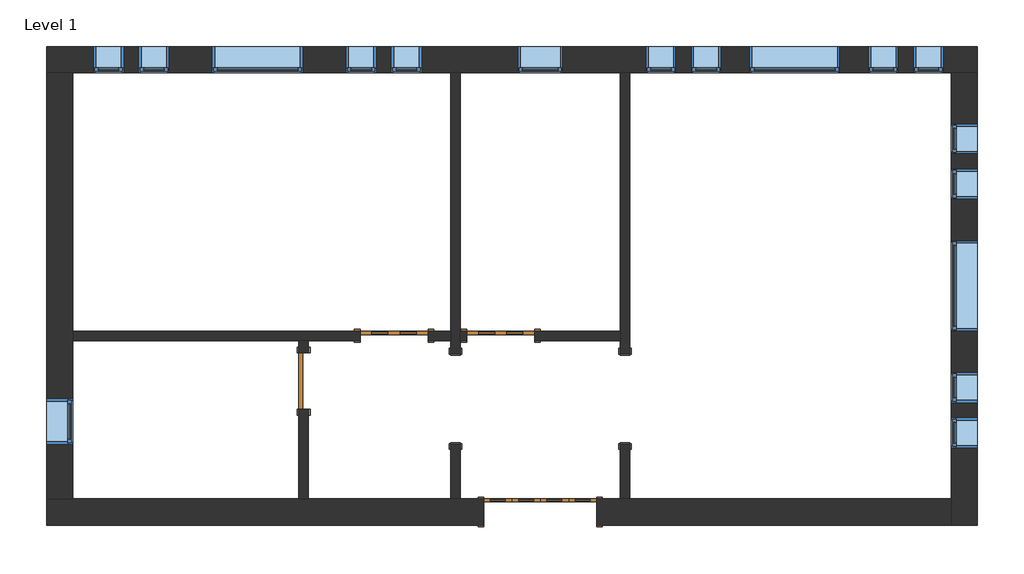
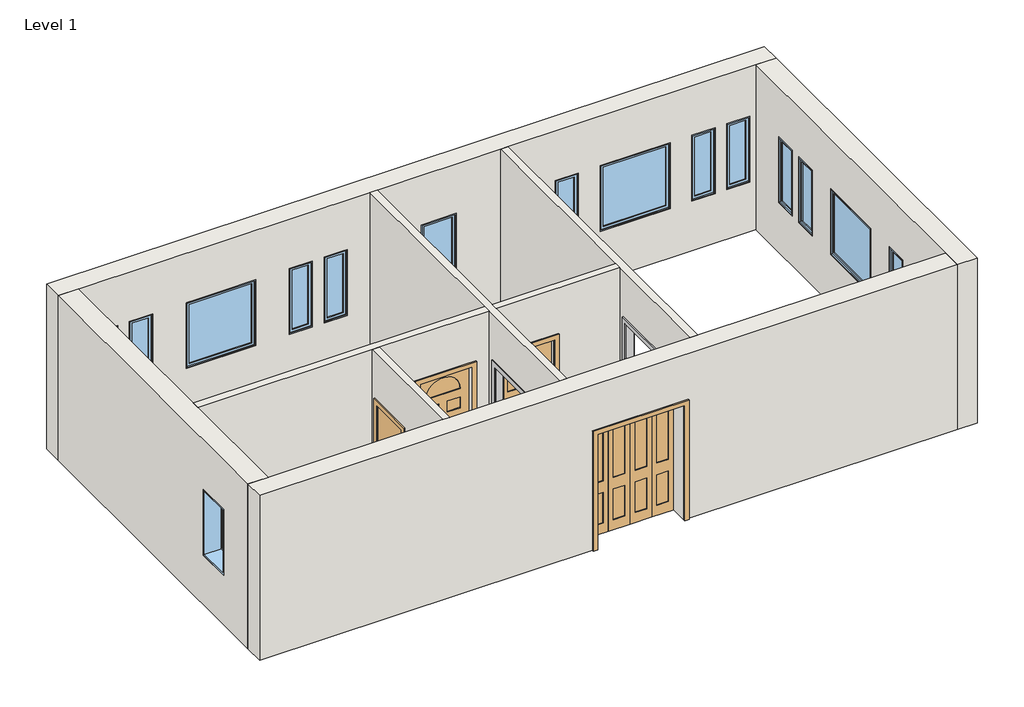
# One storey: 17 windows, 8 walls, 4 doors, 2 proxies.
"""IFC4 building model written with IfcOpenShell, lengths in millimetres."""

from ifc_helpers import new_model, si_unit, frame, origin, place, context, project, spatial, polyline, outline, extrude, faceted_brep, transform, mapped, element, save
from components import proxy_f44482cc, door_0d09f749, door_829da954, door_2e3b4da2, door_4d6c7550, window_da97879f, window_d61ef850, window_60baf983, window_6eb97611

model = new_model("IFC4")

# Units and contexts
model_context = context("Model", 3, world=origin())
ifc_project = project(units=[si_unit("LENGTHUNIT", "METRE", prefix="MILLI")], contexts=[model_context])

# Site, building, storey
site = spatial("IfcSite", under=ifc_project)
building = spatial("IfcBuilding", under=site)
storey = spatial("IfcBuildingStorey", under=building, Name="Level 1", Elevation=0.0)

# Proxies
placement = place(None, origin())
proxy_shape = proxy_f44482cc(model_context)
element("IfcBuildingElementProxy", 1, Name="Passage Opening-Cased : 48\" x 84\"", ObjectType="Passage Opening-Cased : 48\" x 84\"", at=placement, inside=storey, context=model_context, shape_type="MappedRepresentation", body=[
    mapped(proxy_shape, transform((3208.4428612, 1537.2944757, 0.0), x_axis=(0.0, 1.0, 0.0), y_axis=(-1.0, 0.0, 0.0), z_axis=(0.0, 0.0, 1.0))),
])
element("IfcBuildingElementProxy", 2, Name="Passage Opening-Cased : 48\" x 84\"", ObjectType="Passage Opening-Cased : 48\" x 84\"", at=placement, inside=storey, context=model_context, shape_type="MappedRepresentation", body=[
    mapped(proxy_shape, transform((922.4428612, 1537.2944757, 0.0), x_axis=(0.0, 1.0, 0.0), y_axis=(-1.0, 0.0, 0.0), z_axis=(0.0, 0.0, 1.0))),
])

# Doors
door_shape = door_0d09f749(model_context)
element("IfcDoor", 3, ObjectType="Bifold-4 Panel : 60\" x 84\"", at=placement, inside=storey, context=model_context, shape_type="MappedRepresentation", body=[
    mapped(door_shape, transform((2065.4428612, 5.105819, 0.0), x_axis=(1.0, 0.0, 0.0), y_axis=(0.0, 1.0, 0.0), z_axis=(0.0, 0.0, 1.0))),
])
door_2_shape = door_829da954(model_context)
element("IfcDoor", 4, ObjectType="Single-Decorative 2 : 36\" x 84\"", at=placement, inside=storey, context=model_context, shape_type="MappedRepresentation", body=[
    mapped(door_2_shape, transform((1532.0428612, 2378.418319, 0.0), x_axis=(-1.0, 0.0, 0.0), y_axis=(0.0, -1.0, 0.0), z_axis=(0.0, 0.0, 1.0))),
])
door_3_shape = door_2e3b4da2(model_context)
element("IfcDoor", 5, ObjectType="Single-Decorative 2 : 36\" x 84\"", at=placement, inside=storey, context=model_context, shape_type="MappedRepresentation", body=[
    mapped(door_3_shape, transform((95.3553612, 2378.418319, 0.0), x_axis=(1.0, 0.0, 0.0), y_axis=(0.0, 1.0, 0.0), z_axis=(0.0, 0.0, 1.0))),
])
door_4_shape = door_4d6c7550(model_context)
element("IfcDoor", 6, ObjectType="Single-Flush : 30\" x 84\"", at=placement, inside=storey, context=model_context, shape_type="MappedRepresentation", body=[
    mapped(door_4_shape, transform((-1123.8446388, 1768.818319, 0.0), x_axis=(0.0, 1.0, 0.0), y_axis=(-1.0, 0.0, 0.0), z_axis=(0.0, 0.0, 1.0))),
])

# Walls
element("IfcWall", 7, ObjectType="Exterior - Brick on Mtl. Stud", at=placement, inside=storey, context=model_context, shape_type="Brep", body=[
    faceted_brep([(-4587.7696388, 5924.893319, 0.0), (-4235.3446388, 5924.893319, 0.0), (858.9428612, 5924.893319, 0.0), (985.9428612, 5924.893319, 0.0), (3144.9428612, 5924.893319, 0.0), (3271.9428612, 5924.893319, 0.0), (7604.2303612, 5924.893319, 0.0), (7956.6553612, 5924.893319, 0.0), (7956.6553612, 5924.893319, 3048.0), (7604.2303612, 5924.893319, 3048.0), (3271.9428612, 5924.893319, 3048.0), (3144.9428612, 5924.893319, 3048.0), (985.9428612, 5924.893319, 3048.0), (858.9428612, 5924.893319, 3048.0), (-4235.3446388, 5924.893319, 3048.0), (-4587.7696388, 5924.893319, 3048.0), (1760.6428612, 5924.893319, 2133.6), (2370.2428612, 5924.893319, 2133.6), (2370.2428612, 5924.893319, 914.4), (1760.6428612, 5924.893319, 914.4), (-2354.1571388, 5924.893319, 2133.6), (-1134.9571388, 5924.893319, 2133.6), (-1134.9571388, 5924.893319, 914.4), (-2354.1571388, 5924.893319, 914.4), (4884.8428612, 5924.893319, 2133.6), (6104.0428612, 5924.893319, 2133.6), (6104.0428612, 5924.893319, 914.4), (4884.8428612, 5924.893319, 914.4), (-3954.3571388, 5924.893319, 2133.6), (-3547.9571388, 5924.893319, 2133.6), (-3547.9571388, 5924.893319, 914.4), (-3954.3571388, 5924.893319, 914.4), (-3344.7571388, 5924.893319, 2133.6), (-2938.3571388, 5924.893319, 2133.6), (-2938.3571388, 5924.893319, 914.4), (-3344.7571388, 5924.893319, 914.4), (-144.3571388, 5924.893319, 2133.6), (-144.3571388, 5924.893319, 914.4), (-550.7571388, 5924.893319, 914.4), (-550.7571388, 5924.893319, 2133.6), (465.2428612, 5924.893319, 2133.6), (465.2428612, 5924.893319, 914.4), (58.8428612, 5924.893319, 914.4), (58.8428612, 5924.893319, 2133.6), (4097.4428612, 5924.893319, 2133.6), (4503.8428612, 5924.893319, 2133.6), (4503.8428612, 5924.893319, 914.4), (4097.4428612, 5924.893319, 914.4), (3487.8428612, 5924.893319, 2133.6), (3894.2428612, 5924.893319, 2133.6), (3894.2428612, 5924.893319, 914.4), (3487.8428612, 5924.893319, 914.4), (7094.6428612, 5924.893319, 2133.6), (7501.0428612, 5924.893319, 2133.6), (7501.0428612, 5924.893319, 914.4), (7094.6428612, 5924.893319, 914.4), (6485.0428612, 5924.893319, 2133.6), (6891.4428612, 5924.893319, 2133.6), (6891.4428612, 5924.893319, 914.4), (6485.0428612, 5924.893319, 914.4), (-4587.7696388, 6277.318319, 0.0), (-4587.7696388, 6277.318319, 3048.0), (7956.6553612, 6277.318319, 3048.0), (7956.6553612, 6277.318319, 0.0), (1760.6428612, 6277.318319, 2133.6), (1760.6428612, 6277.318319, 914.4), (2370.2428612, 6277.318319, 914.4), (2370.2428612, 6277.318319, 2133.6), (-2354.1571388, 6277.318319, 2133.6), (-2354.1571388, 6277.318319, 914.4), (-1134.9571388, 6277.318319, 914.4), (-1134.9571388, 6277.318319, 2133.6), (4884.8428612, 6277.318319, 2133.6), (4884.8428612, 6277.318319, 914.4), (6104.0428612, 6277.318319, 914.4), (6104.0428612, 6277.318319, 2133.6), (-3954.3571388, 6277.318319, 2133.6), (-3954.3571388, 6277.318319, 914.4), (-3547.9571388, 6277.318319, 914.4), (-3547.9571388, 6277.318319, 2133.6), (-3344.7571388, 6277.318319, 2133.6), (-3344.7571388, 6277.318319, 914.4), (-2938.3571388, 6277.318319, 914.4), (-2938.3571388, 6277.318319, 2133.6), (-144.3571388, 6277.318319, 2133.6), (-550.7571388, 6277.318319, 2133.6), (-550.7571388, 6277.318319, 914.4), (-144.3571388, 6277.318319, 914.4), (465.2428612, 6277.318319, 2133.6), (58.8428612, 6277.318319, 2133.6), (58.8428612, 6277.318319, 914.4), (465.2428612, 6277.318319, 914.4), (4097.4428612, 6277.318319, 2133.6), (4097.4428612, 6277.318319, 914.4), (4503.8428612, 6277.318319, 914.4), (4503.8428612, 6277.318319, 2133.6), (3487.8428612, 6277.318319, 2133.6), (3487.8428612, 6277.318319, 914.4), (3894.2428612, 6277.318319, 914.4), (3894.2428612, 6277.318319, 2133.6), (7094.6428612, 6277.318319, 2133.6), (7094.6428612, 6277.318319, 914.4), (7501.0428612, 6277.318319, 914.4), (7501.0428612, 6277.318319, 2133.6), (6485.0428612, 6277.318319, 2133.6), (6485.0428612, 6277.318319, 914.4), (6891.4428612, 6277.318319, 914.4), (6891.4428612, 6277.318319, 2133.6)], [[[0, 1, 2, 3, 4, 5, 6, 7, 8, 9, 10, 11, 12, 13, 14, 15], [16, 17, 18, 19], [20, 21, 22, 23], [24, 25, 26, 27], [28, 29, 30, 31], [32, 33, 34, 35], [36, 37, 38, 39], [40, 41, 42, 43], [44, 45, 46, 47], [48, 49, 50, 51], [52, 53, 54, 55], [56, 57, 58, 59]], [[60, 61, 62, 63], [64, 65, 66, 67], [68, 69, 70, 71], [72, 73, 74, 75], [76, 77, 78, 79], [80, 81, 82, 83], [84, 85, 86, 87], [88, 89, 90, 91], [92, 93, 94, 95], [96, 97, 98, 99], [100, 101, 102, 103], [104, 105, 106, 107]], [[7, 6, 5, 4, 3, 2, 1, 0, 60, 63]], [[15, 14, 13, 12, 11, 10, 9, 8, 62, 61]], [[8, 7, 63, 62]], [[0, 15, 61, 60]], [[65, 64, 16, 19]], [[66, 65, 19, 18]], [[67, 66, 18, 17]], [[64, 67, 17, 16]], [[69, 68, 20, 23]], [[70, 69, 23, 22]], [[71, 70, 22, 21]], [[68, 71, 21, 20]], [[73, 72, 24, 27]], [[74, 73, 27, 26]], [[75, 74, 26, 25]], [[72, 75, 25, 24]], [[77, 76, 28, 31]], [[78, 77, 31, 30]], [[79, 78, 30, 29]], [[76, 79, 29, 28]], [[81, 80, 32, 35]], [[82, 81, 35, 34]], [[83, 82, 34, 33]], [[80, 83, 33, 32]], [[37, 36, 84, 87]], [[38, 37, 87, 86]], [[39, 38, 86, 85]], [[36, 39, 85, 84]], [[41, 40, 88, 91]], [[42, 41, 91, 90]], [[43, 42, 90, 89]], [[40, 43, 89, 88]], [[93, 92, 44, 47]], [[94, 93, 47, 46]], [[95, 94, 46, 45]], [[92, 95, 45, 44]], [[97, 96, 48, 51]], [[98, 97, 51, 50]], [[99, 98, 50, 49]], [[96, 99, 49, 48]], [[101, 100, 52, 55]], [[102, 101, 55, 54]], [[103, 102, 54, 53]], [[100, 103, 53, 52]], [[105, 104, 56, 59]], [[106, 105, 59, 58]], [[107, 106, 58, 57]], [[104, 107, 57, 56]]]),
])
element("IfcWall", 8, ObjectType="Exterior - Brick on Mtl. Stud", at=placement, inside=storey, context=model_context, shape_type="Brep", body=[
    faceted_brep([(7604.2303612, 5924.893319, 0.0), (7604.2303612, 181.318319, 0.0), (7604.2303612, -171.106681, 0.0), (7604.2303612, -171.106681, 3048.0), (7604.2303612, 181.318319, 3048.0), (7604.2303612, 5924.893319, 3048.0), (7604.2303612, 3662.705819, 2133.6), (7604.2303612, 2443.505819, 2133.6), (7604.2303612, 2443.505819, 914.4), (7604.2303612, 3662.705819, 914.4), (7604.2303612, 4627.905819, 2133.6), (7604.2303612, 4221.505819, 2133.6), (7604.2303612, 4221.505819, 914.4), (7604.2303612, 4627.905819, 914.4), (7604.2303612, 5237.505819, 2133.6), (7604.2303612, 4831.105819, 2133.6), (7604.2303612, 4831.105819, 914.4), (7604.2303612, 5237.505819, 914.4), (7604.2303612, 1275.105819, 2133.6), (7604.2303612, 868.705819, 2133.6), (7604.2303612, 868.705819, 914.4), (7604.2303612, 1275.105819, 914.4), (7604.2303612, 1884.705819, 2133.6), (7604.2303612, 1478.305819, 2133.6), (7604.2303612, 1478.305819, 914.4), (7604.2303612, 1884.705819, 914.4), (7956.6553612, 5924.893319, 0.0), (7956.6553612, 5924.893319, 3048.0), (7956.6553612, -171.106681, 3048.0), (7956.6553612, -171.106681, 0.0), (7956.6553612, 3662.705819, 2133.6), (7956.6553612, 3662.705819, 914.4), (7956.6553612, 2443.505819, 914.4), (7956.6553612, 2443.505819, 2133.6), (7956.6553612, 4627.905819, 2133.6), (7956.6553612, 4627.905819, 914.4), (7956.6553612, 4221.505819, 914.4), (7956.6553612, 4221.505819, 2133.6), (7956.6553612, 5237.505819, 2133.6), (7956.6553612, 5237.505819, 914.4), (7956.6553612, 4831.105819, 914.4), (7956.6553612, 4831.105819, 2133.6), (7956.6553612, 1275.105819, 2133.6), (7956.6553612, 1275.105819, 914.4), (7956.6553612, 868.705819, 914.4), (7956.6553612, 868.705819, 2133.6), (7956.6553612, 1884.705819, 2133.6), (7956.6553612, 1884.705819, 914.4), (7956.6553612, 1478.305819, 914.4), (7956.6553612, 1478.305819, 2133.6)], [[[0, 1, 2, 3, 4, 5], [6, 7, 8, 9], [10, 11, 12, 13], [14, 15, 16, 17], [18, 19, 20, 21], [22, 23, 24, 25]], [[26, 27, 28, 29], [30, 31, 32, 33], [34, 35, 36, 37], [38, 39, 40, 41], [42, 43, 44, 45], [46, 47, 48, 49]], [[2, 1, 0, 26, 29]], [[5, 4, 3, 28, 27]], [[0, 5, 27, 26]], [[3, 2, 29, 28]], [[31, 30, 6, 9]], [[32, 31, 9, 8]], [[33, 32, 8, 7]], [[30, 33, 7, 6]], [[35, 34, 10, 13]], [[36, 35, 13, 12]], [[37, 36, 12, 11]], [[34, 37, 11, 10]], [[39, 38, 14, 17]], [[40, 39, 17, 16]], [[41, 40, 16, 15]], [[38, 41, 15, 14]], [[43, 42, 18, 21]], [[44, 43, 21, 20]], [[45, 44, 20, 19]], [[42, 45, 19, 18]], [[47, 46, 22, 25]], [[48, 47, 25, 24]], [[49, 48, 24, 23]], [[46, 49, 23, 22]]]),
])
element("IfcWall", 9, ObjectType="Exterior - Brick on Mtl. Stud", at=placement, inside=storey, context=model_context, shape_type="Brep", body=[
    faceted_brep([(-4587.7696388, 181.318319, 3048.0), (-4235.3446388, 181.318319, 3048.0), (-1187.3446388, 181.318319, 3048.0), (-1060.3446388, 181.318319, 3048.0), (858.9428612, 181.318319, 3048.0), (985.9428612, 181.318319, 3048.0), (3144.9428612, 181.318319, 3048.0), (3271.9428612, 181.318319, 3048.0), (7604.2303612, 181.318319, 3048.0), (7604.2303612, 181.318319, 0.0), (3271.9428612, 181.318319, 0.0), (3144.9428612, 181.318319, 0.0), (2827.4428612, 181.318319, 0.0), (2827.4428612, 181.318319, 2133.6), (1303.4428612, 181.318319, 2133.6), (1303.4428612, 181.318319, 0.0), (985.9428612, 181.318319, 0.0), (858.9428612, 181.318319, 0.0), (-1060.3446388, 181.318319, 0.0), (-1187.3446388, 181.318319, 0.0), (-4235.3446388, 181.318319, 0.0), (-4587.7696388, 181.318319, 0.0), (7604.2303612, -171.106681, 3048.0), (-4587.7696388, -171.106681, 3048.0), (-4587.7696388, -171.106681, 0.0), (1303.4428612, -171.106681, 0.0), (1303.4428612, -171.106681, 2133.6), (2827.4428612, -171.106681, 2133.6), (2827.4428612, -171.106681, 0.0), (7604.2303612, -171.106681, 0.0)], [[[0, 1, 2, 3, 4, 5, 6, 7, 8, 9, 10, 11, 12, 13, 14, 15, 16, 17, 18, 19, 20, 21]], [[22, 23, 24, 25, 26, 27, 28, 29]], [[9, 29, 28, 12, 11, 10]], [[24, 21, 20, 19, 18, 17, 16, 15, 25]], [[8, 7, 6, 5, 4, 3, 2, 1, 0, 23, 22]], [[9, 8, 22, 29]], [[0, 21, 24, 23]], [[27, 13, 12, 28]], [[13, 27, 26, 14]], [[14, 26, 25, 15]]]),
])
element("IfcWall", 10, ObjectType="Exterior - Brick on Mtl. Stud", at=placement, inside=storey, context=model_context, shape_type="Brep", body=[
    faceted_brep([(-4235.3446388, 181.318319, 0.0), (-4235.3446388, 2314.918319, 0.0), (-4235.3446388, 2441.918319, 0.0), (-4235.3446388, 5924.893319, 0.0), (-4235.3446388, 5924.893319, 3048.0), (-4235.3446388, 2441.918319, 3048.0), (-4235.3446388, 2314.918319, 3048.0), (-4235.3446388, 181.318319, 3048.0), (-4235.3446388, 919.505819, 2133.6), (-4235.3446388, 1529.105819, 2133.6), (-4235.3446388, 1529.105819, 914.4), (-4235.3446388, 919.505819, 914.4), (-4587.7696388, 181.318319, 0.0), (-4587.7696388, 181.318319, 3048.0), (-4587.7696388, 5924.893319, 3048.0), (-4587.7696388, 5924.893319, 0.0), (-4587.7696388, 919.505819, 2133.6), (-4587.7696388, 919.505819, 914.4), (-4587.7696388, 1529.105819, 914.4), (-4587.7696388, 1529.105819, 2133.6)], [[[0, 1, 2, 3, 4, 5, 6, 7], [8, 9, 10, 11]], [[12, 13, 14, 15], [16, 17, 18, 19]], [[3, 2, 1, 0, 12, 15]], [[7, 6, 5, 4, 14, 13]], [[0, 7, 13, 12]], [[4, 3, 15, 14]], [[17, 16, 8, 11]], [[18, 17, 11, 10]], [[19, 18, 10, 9]], [[16, 19, 9, 8]]]),
])
element("IfcWall", 11, ObjectType="Interior - 5\" Partition (2-hr)", at=placement, inside=storey, context=model_context, shape_type="Brep", body=[
    faceted_brep([(3144.9428612, 5924.893319, 0.0), (3144.9428612, 2441.918319, 0.0), (3144.9428612, 2314.918319, 0.0), (3144.9428612, 2138.705819, 0.0), (3144.9428612, 2138.705819, 2133.6), (3144.9428612, 919.505819, 2133.6), (3144.9428612, 919.505819, 0.0), (3144.9428612, 181.318319, 0.0), (3144.9428612, 181.318319, 3048.0), (3144.9428612, 2314.918319, 3048.0), (3144.9428612, 2441.918319, 3048.0), (3144.9428612, 5924.893319, 3048.0), (3271.9428612, 2138.705819, 2133.6), (3271.9428612, 2138.705819, 0.0), (3271.9428612, 5924.893319, 0.0), (3271.9428612, 5924.893319, 3048.0), (3271.9428612, 181.318319, 3048.0), (3271.9428612, 181.318319, 0.0), (3271.9428612, 919.505819, 0.0), (3271.9428612, 919.505819, 2133.6)], [[[0, 1, 2, 3, 4, 5, 6, 7, 8, 9, 10, 11]], [[12, 13, 14, 15, 16, 17, 18, 19]], [[18, 17, 7, 6]], [[14, 13, 3, 2, 1, 0]], [[11, 10, 9, 8, 16, 15]], [[0, 11, 15, 14]], [[8, 7, 17, 16]], [[6, 5, 19, 18]], [[4, 3, 13, 12]], [[5, 4, 12, 19]]]),
])
element("IfcWall", 12, ObjectType="Interior - 5\" Partition (2-hr)", at=placement, inside=storey, context=model_context, shape_type="Brep", body=[
    faceted_brep([(858.9428612, 5924.893319, 0.0), (858.9428612, 2441.918319, 0.0), (858.9428612, 2314.918319, 0.0), (858.9428612, 2138.705819, 0.0), (858.9428612, 2138.705819, 2133.6), (858.9428612, 919.505819, 2133.6), (858.9428612, 919.505819, 0.0), (858.9428612, 181.318319, 0.0), (858.9428612, 181.318319, 3048.0), (858.9428612, 2314.918319, 3048.0), (858.9428612, 2441.918319, 3048.0), (858.9428612, 5924.893319, 3048.0), (985.9428612, 2138.705819, 2133.6), (985.9428612, 2138.705819, 0.0), (985.9428612, 2314.918319, 0.0), (985.9428612, 2441.918319, 0.0), (985.9428612, 5924.893319, 0.0), (985.9428612, 5924.893319, 3048.0), (985.9428612, 2441.918319, 3048.0), (985.9428612, 2314.918319, 3048.0), (985.9428612, 181.318319, 3048.0), (985.9428612, 181.318319, 0.0), (985.9428612, 919.505819, 0.0), (985.9428612, 919.505819, 2133.6)], [[[0, 1, 2, 3, 4, 5, 6, 7, 8, 9, 10, 11]], [[12, 13, 14, 15, 16, 17, 18, 19, 20, 21, 22, 23]], [[22, 21, 7, 6]], [[16, 15, 14, 13, 3, 2, 1, 0]], [[11, 10, 9, 8, 20, 19, 18, 17]], [[0, 11, 17, 16]], [[8, 7, 21, 20]], [[6, 5, 23, 22]], [[4, 3, 13, 12]], [[5, 4, 12, 23]]]),
])
element("IfcWall", 13, ObjectType="Interior - 5\" Partition (2-hr)", at=placement, inside=storey, context=model_context, shape_type="Brep", body=[
    faceted_brep([(-4235.3446388, 2314.918319, 3048.0), (-4235.3446388, 2314.918319, 0.0), (-1187.3446388, 2314.918319, 0.0), (-1060.3446388, 2314.918319, 0.0), (-361.8446388, 2314.918319, 0.0), (-361.8446388, 2314.918319, 2133.6), (552.5553612, 2314.918319, 2133.6), (552.5553612, 2314.918319, 0.0), (858.9428612, 2314.918319, 0.0), (858.9428612, 2314.918319, 3048.0), (-1060.3446388, 2314.918319, 3048.0), (-1187.3446388, 2314.918319, 3048.0), (-4235.3446388, 2441.918319, 0.0), (-4235.3446388, 2441.918319, 3048.0), (858.9428612, 2441.918319, 3048.0), (858.9428612, 2441.918319, 0.0), (552.5553612, 2441.918319, 0.0), (552.5553612, 2441.918319, 2133.6), (-361.8446388, 2441.918319, 2133.6), (-361.8446388, 2441.918319, 0.0)], [[[0, 1, 2, 3, 4, 5, 6, 7, 8, 9, 10, 11]], [[12, 13, 14, 15, 16, 17, 18, 19]], [[1, 12, 19, 4, 3, 2]], [[7, 16, 15, 8]], [[13, 0, 11, 10, 9, 14]], [[1, 0, 13, 12]], [[9, 8, 15, 14]], [[17, 16, 7, 6]], [[18, 17, 6, 5]], [[19, 18, 5, 4]]]),
    faceted_brep([(3144.9428612, 2314.918319, 0.0), (3144.9428612, 2314.918319, 3048.0), (985.9428612, 2314.918319, 3048.0), (985.9428612, 2314.918319, 0.0), (1074.8428612, 2314.918319, 0.0), (1074.8428612, 2314.918319, 2133.6), (1989.2428612, 2314.918319, 2133.6), (1989.2428612, 2314.918319, 0.0), (3144.9428612, 2441.918319, 3048.0), (3144.9428612, 2441.918319, 0.0), (1989.2428612, 2441.918319, 0.0), (1989.2428612, 2441.918319, 2133.6), (1074.8428612, 2441.918319, 2133.6), (1074.8428612, 2441.918319, 0.0), (985.9428612, 2441.918319, 0.0), (985.9428612, 2441.918319, 3048.0)], [[[0, 1, 2, 3, 4, 5, 6, 7]], [[8, 9, 10, 11, 12, 13, 14, 15]], [[9, 0, 7, 10]], [[13, 4, 3, 14]], [[1, 8, 15, 2]], [[1, 0, 9, 8]], [[3, 2, 15, 14]], [[5, 4, 13, 12]], [[6, 5, 12, 11]], [[7, 6, 11, 10]]]),
])
element("IfcWall", 14, ObjectType="Interior - 5\" Partition (2-hr)", at=placement, inside=storey, context=model_context, shape_type="SweptSolid", body=[
    extrude(outline(polyline([(2314.918319, 0.0), (2149.818319, 0.0), (2149.818319, 2133.6), (1387.818319, 2133.6), (1387.818319, 0.0), (181.318319, 0.0), (181.318319, 3048.0), (2314.918319, 3048.0), (2314.918319, 0.0)])), frame((-1187.3446388, 0.0, 0.0), z_axis=(1.0, 0.0, 0.0), x_axis=(0.0, 1.0, 0.0)), (0.0, 0.0, 1.0), 127.0),
])

# Windows
window_shape = window_da97879f(model_context)
element("IfcWindow", 15, ObjectType="Fixed : 16\" x 48\"", at=placement, inside=storey, context=model_context, shape_type="MappedRepresentation", body=[
    mapped(window_shape, transform((-3789.2571388, 6101.105819, 0.0), x_axis=(-1.0, 0.0, 0.0), y_axis=(0.0, -1.0, 0.0), z_axis=(0.0, 0.0, 1.0))),
])
element("IfcWindow", 16, ObjectType="Fixed : 16\" x 48\"", at=placement, inside=storey, context=model_context, shape_type="MappedRepresentation", body=[
    mapped(window_shape, transform((-3179.6571388, 6101.105819, 0.0), x_axis=(-1.0, 0.0, 0.0), y_axis=(0.0, -1.0, 0.0), z_axis=(0.0, 0.0, 1.0))),
])
element("IfcWindow", 17, ObjectType="Fixed : 16\" x 48\"", at=placement, inside=storey, context=model_context, shape_type="MappedRepresentation", body=[
    mapped(window_shape, transform((3652.9428612, 6101.105819, 0.0), x_axis=(-1.0, 0.0, 0.0), y_axis=(0.0, -1.0, 0.0), z_axis=(0.0, 0.0, 1.0))),
])
element("IfcWindow", 18, ObjectType="Fixed : 16\" x 48\"", at=placement, inside=storey, context=model_context, shape_type="MappedRepresentation", body=[
    mapped(window_shape, transform((4262.5428612, 6101.105819, 0.0), x_axis=(-1.0, 0.0, 0.0), y_axis=(0.0, -1.0, 0.0), z_axis=(0.0, 0.0, 1.0))),
])
element("IfcWindow", 19, ObjectType="Fixed : 16\" x 48\"", at=placement, inside=storey, context=model_context, shape_type="MappedRepresentation", body=[
    mapped(window_shape, transform((6650.1428612, 6101.105819, 0.0), x_axis=(-1.0, 0.0, 0.0), y_axis=(0.0, -1.0, 0.0), z_axis=(0.0, 0.0, 1.0))),
])
element("IfcWindow", 20, ObjectType="Fixed : 16\" x 48\"", at=placement, inside=storey, context=model_context, shape_type="MappedRepresentation", body=[
    mapped(window_shape, transform((7259.7428612, 6101.105819, 0.0), x_axis=(-1.0, 0.0, 0.0), y_axis=(0.0, -1.0, 0.0), z_axis=(0.0, 0.0, 1.0))),
])
element("IfcWindow", 21, ObjectType="Fixed : 16\" x 48\"", at=placement, inside=storey, context=model_context, shape_type="MappedRepresentation", body=[
    mapped(window_shape, transform((7780.4428612, 5072.405819, 0.0), x_axis=(0.0, 1.0, 0.0), y_axis=(-1.0, 0.0, 0.0), z_axis=(0.0, 0.0, 1.0))),
])
element("IfcWindow", 22, ObjectType="Fixed : 16\" x 48\"", at=placement, inside=storey, context=model_context, shape_type="MappedRepresentation", body=[
    mapped(window_shape, transform((7780.4428612, 4462.805819, 0.0), x_axis=(0.0, 1.0, 0.0), y_axis=(-1.0, 0.0, 0.0), z_axis=(0.0, 0.0, 1.0))),
])
element("IfcWindow", 23, ObjectType="Fixed : 16\" x 48\"", at=placement, inside=storey, context=model_context, shape_type="MappedRepresentation", body=[
    mapped(window_shape, transform((7780.4428612, 1719.605819, 0.0), x_axis=(0.0, 1.0, 0.0), y_axis=(-1.0, 0.0, 0.0), z_axis=(0.0, 0.0, 1.0))),
])
element("IfcWindow", 24, ObjectType="Fixed : 16\" x 48\"", at=placement, inside=storey, context=model_context, shape_type="MappedRepresentation", body=[
    mapped(window_shape, transform((7780.4428612, 1110.005819, 0.0), x_axis=(0.0, 1.0, 0.0), y_axis=(-1.0, 0.0, 0.0), z_axis=(0.0, 0.0, 1.0))),
])
window_2_shape = window_d61ef850(model_context)
element("IfcWindow", 25, ObjectType="Fixed : 16\" x 48\"", at=placement, inside=storey, context=model_context, shape_type="MappedRepresentation", body=[
    mapped(window_2_shape, transform((300.1428612, 6101.105819, 0.0), x_axis=(1.0, 0.0, 0.0), y_axis=(0.0, 1.0, 0.0), z_axis=(0.0, 0.0, 1.0))),
])
element("IfcWindow", 26, ObjectType="Fixed : 16\" x 48\"", at=placement, inside=storey, context=model_context, shape_type="MappedRepresentation", body=[
    mapped(window_2_shape, transform((-309.4571388, 6101.105819, 0.0), x_axis=(1.0, 0.0, 0.0), y_axis=(0.0, 1.0, 0.0), z_axis=(0.0, 0.0, 1.0))),
])
window_3_shape = window_60baf983(model_context)
element("IfcWindow", 27, ObjectType="Fixed : 24\" x 48\"", at=placement, inside=storey, context=model_context, shape_type="MappedRepresentation", body=[
    mapped(window_3_shape, transform((2027.3428612, 6101.105819, 0.0), x_axis=(-1.0, 0.0, 0.0), y_axis=(0.0, -1.0, 0.0), z_axis=(0.0, 0.0, 1.0))),
])
element("IfcWindow", 28, ObjectType="Fixed : 24\" x 48\"", at=placement, inside=storey, context=model_context, shape_type="MappedRepresentation", body=[
    mapped(window_3_shape, transform((-4411.5571388, 1186.205819, 0.0), x_axis=(0.0, -1.0, 0.0), y_axis=(1.0, 0.0, 0.0), z_axis=(0.0, 0.0, 1.0))),
])
window_4_shape = window_6eb97611(model_context)
element("IfcWindow", 29, ObjectType="Fixed : 48\" x 48\"", at=placement, inside=storey, context=model_context, shape_type="MappedRepresentation", body=[
    mapped(window_4_shape, transform((-1782.6571388, 6101.105819, 0.0), x_axis=(-1.0, 0.0, 0.0), y_axis=(0.0, -1.0, 0.0), z_axis=(0.0, 0.0, 1.0))),
])
element("IfcWindow", 30, ObjectType="Fixed : 48\" x 48\"", at=placement, inside=storey, context=model_context, shape_type="MappedRepresentation", body=[
    mapped(window_4_shape, transform((5456.3428612, 6101.105819, 0.0), x_axis=(-1.0, 0.0, 0.0), y_axis=(0.0, -1.0, 0.0), z_axis=(0.0, 0.0, 1.0))),
])
element("IfcWindow", 31, ObjectType="Fixed : 48\" x 48\"", at=placement, inside=storey, context=model_context, shape_type="MappedRepresentation", body=[
    mapped(window_4_shape, transform((7780.4428612, 3091.205819, 0.0), x_axis=(0.0, 1.0, 0.0), y_axis=(-1.0, 0.0, 0.0), z_axis=(0.0, 0.0, 1.0))),
])

save(model, "model.ifc")
